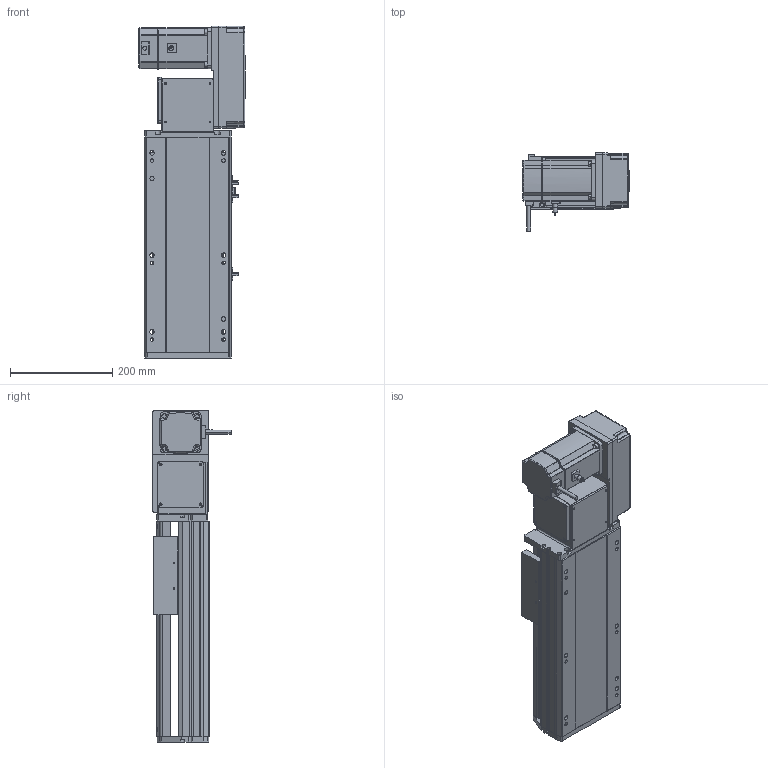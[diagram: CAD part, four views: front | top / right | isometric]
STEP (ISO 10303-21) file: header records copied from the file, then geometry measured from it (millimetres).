
FILE_DESCRIPTION (( 'STEP AP214' ), '1' );
FILE_NAME ('RTB17S-XX-150-R-M75-C4.STEP', '2025-12-12T01:28:41', ( '' ), ( '' ), 'SwSTEP 2.0', 'SolidWorks 2018', '' );
FILE_SCHEMA (( 'AUTOMOTIVE_DESIGN' ));
Length unit declared in the file: millimetre
Products named in the file (15): RTB22S-GY-005P^RTB17S-R-々湍釱蚾饜-750W_RTB17S-XX-XX-R-M75-C4; EE672^RTB17S-XX-XX-R-M75-C4; RTB17S-賑釱^RTB17S-XX-XX-R-M75-C4; RTB22S-GY-008-M75--萇儂啣^RTB17S-R-々湍釱蚾饜-750W_RTB17S-XX-XX-R-M75-C4; RTB22S-GY-017P^RTB17S-R-々湍釱蚾饜-750W_RTB17S-XX-XX-R-M75-C4; 750W萇儂^RTB17S-XX-XX-R-M75-C4; RTB17S-L-014-T20-P75--々湍釱^RTB17S-R-々湍釱蚾饜-750W_RTB17S-XX-XX-R-M75-C4; RTB17S-L-007奻裔^RTB17S-XX-XX-R-M75-C4; RTB17-R-011菁釱^RTB17S-XX-XX-R-M75-C4; RTB17S-R-々湍釱蚾饜-750W^RTB17S-XX-XX-R-M75-C4; RTB17S-XX-150-R-M75-C4; RTH13-BL-012覜茼え俋离^RTB17S-賑釱_RTB17S-XX-XX-R-M75-C4; RTB17S-L-001-耜醱啣^RTB17S-XX-XX-R-M75-C4; RTB22S-GY-018P^RTB17S-R-々湍釱蚾饜-750W_RTB17S-XX-XX-R-M75-C4; RTB17S-L-004-賑釱^RTB17S-賑釱_RTB17S-XX-XX-R-M75-C4
Assembly tree (17 placements, depth 3):
  RTB17S-XX-150-R-M75-C4
    RTB17-R-011菁釱^RTB17S-XX-XX-R-M75-C4
    EE672^RTB17S-XX-XX-R-M75-C4  x3
    RTB17S-L-001-耜醱啣^RTB17S-XX-XX-R-M75-C4
    RTB17S-賑釱^RTB17S-XX-XX-R-M75-C4
      RTB17S-L-004-賑釱^RTB17S-賑釱_RTB17S-XX-XX-R-M75-C4
      RTH13-BL-012覜茼え俋离^RTB17S-賑釱_RTB17S-XX-XX-R-M75-C4
    RTB17S-L-007奻裔^RTB17S-XX-XX-R-M75-C4
    750W萇儂^RTB17S-XX-XX-R-M75-C4
    RTB17S-R-々湍釱蚾饜-750W^RTB17S-XX-XX-R-M75-C4
      RTB17S-L-014-T20-P75--々湍釱^RTB17S-R-々湍釱蚾饜-750W_RTB17S-XX-XX-R-M75-C4
      RTB22S-GY-005P^RTB17S-R-々湍釱蚾饜-750W_RTB17S-XX-XX-R-M75-C4
      RTB22S-GY-017P^RTB17S-R-々湍釱蚾饜-750W_RTB17S-XX-XX-R-M75-C4  x2
      RTB22S-GY-008-M75--萇儂啣^RTB17S-R-々湍釱蚾饜-750W_RTB17S-XX-XX-R-M75-C4
      RTB22S-GY-018P^RTB17S-R-々湍釱蚾饜-750W_RTB17S-XX-XX-R-M75-C4
Bounding box: 207.4 x 152.7 x 649 mm (x, y, z)
Volume: 6887654.1 mm3; surface area: 1026839.2 mm2
Topology: 17 solids, 17 shells, 2025 faces, 5566 edges, 3590 vertices
Faces by surface type: plane 962, cylinder 647, bspline 294, cone 110, sphere 8, torus 4
Entity records: 55030 total; most frequent: CARTESIAN_POINT 16030, ORIENTED_EDGE 7976, DIRECTION 7502, EDGE_CURVE 3988, AXIS2_PLACEMENT_3D 2610, VERTEX_POINT 2594, LINE 2282, VECTOR 2282
